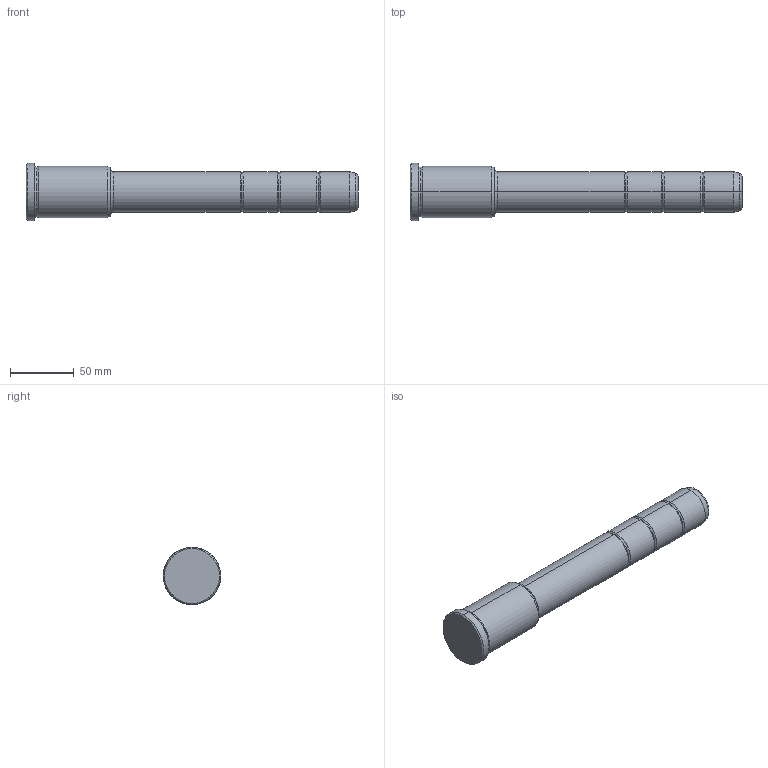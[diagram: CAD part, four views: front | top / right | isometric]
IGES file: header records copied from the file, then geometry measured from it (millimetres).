
Start section: START RECORD GO HERE.
Global section: file name: 351-32X66X260.igs; native system: DASSAULT SYSTEMES CATIA V5 R20 - www.3ds.com; preprocessor: CATIA Version 5 Release 20 ; author: Utente; organization: NB04-ASUS; date: 20210907.142545; units: millimetre
Bounding box: 260 x 45 x 45 mm (x, y, z)
Surface area: 30712.1 mm2 (no closed solid volume)
Topology: 0 solids, 0 shells, 42 faces, 236 edges, 236 vertices
Faces by surface type: revolution 38, plane 4
